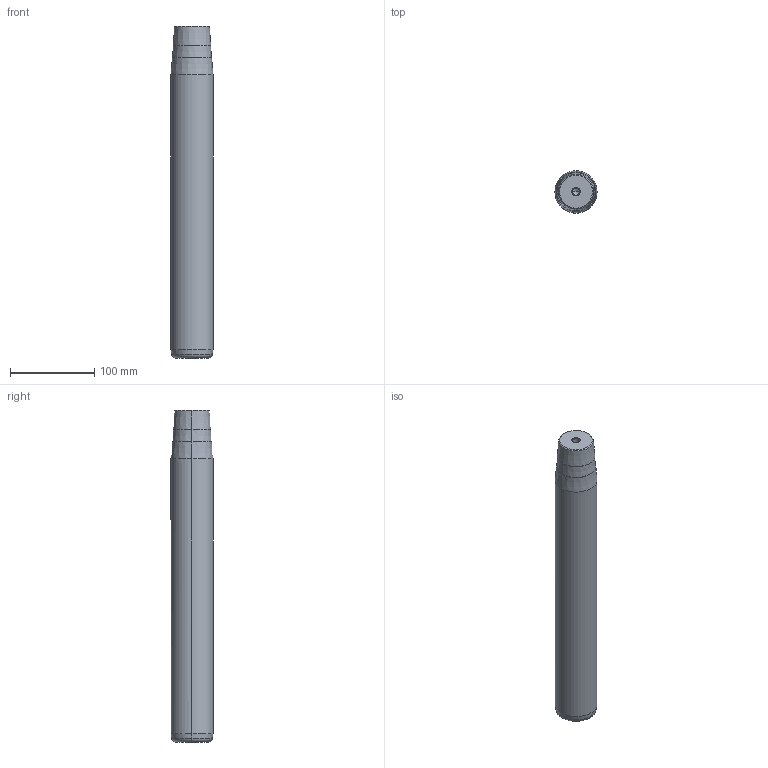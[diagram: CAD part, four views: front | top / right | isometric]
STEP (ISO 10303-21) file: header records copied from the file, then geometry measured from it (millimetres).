
FILE_DESCRIPTION(('CATIA V5 STEP Exchange'),'2;1');
FILE_NAME('C:\Users\Utente\Desktop\IO LAVORO\3D X SITO CF\X SITO\722\722-50x355x395.stp','2021-01-07T19:36:11+00:00',('none'),('none'),'CATIA Version 5 Release 20 GA (IN-10)','CATIA V5 STEP AP203','none');
FILE_SCHEMA(('CONFIG_CONTROL_DESIGN'));
Length unit declared in the file: millimetre
Products named in the file (1): 722-50x355x395
Bounding box: 50 x 50 x 395 mm (x, y, z)
Volume: 751860.5 mm3; surface area: 65445.4 mm2
Topology: 1 solids, 1 shells, 32 faces, 66 edges, 34 vertices
Faces by surface type: cone 22, cylinder 6, plane 2, torus 2
Entity records: 866 total; most frequent: CARTESIAN_POINT 189, ORIENTED_EDGE 124, DIRECTION 123, AXIS2_PLACEMENT_3D 64, EDGE_CURVE 62, EDGE_LOOP 34, VERTEX_POINT 34, ADVANCED_FACE 32
